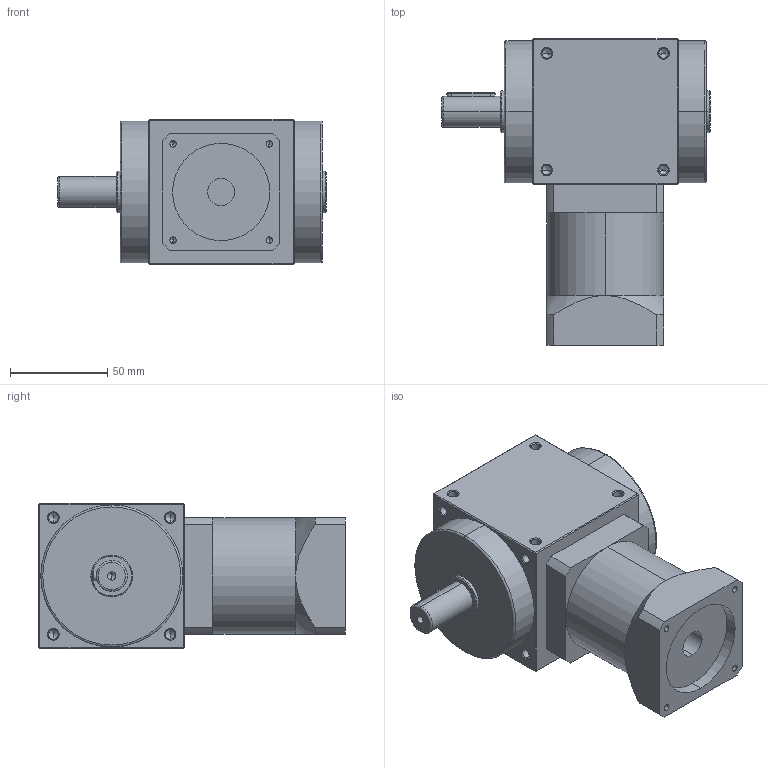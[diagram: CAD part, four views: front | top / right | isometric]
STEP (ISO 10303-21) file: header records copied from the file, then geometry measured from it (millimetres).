
FILE_DESCRIPTION (( 'STEP AP214' ), '1' );
FILE_NAME ('AT075-FL1-L1--14-50-70-M4.STEP', '2020-05-12T08:48:27', ( 'User' ), ( 'Far123' ), 'SwSTEP 2.0', 'SolidWorks 2015', '' );
FILE_SCHEMA (( 'AUTOMOTIVE_DESIGN' ));
Length unit declared in the file: millimetre
Products named in the file (1): AT075-FL1-L1--14-50-70-M4
Bounding box: 138 x 157.5 x 75 mm (x, y, z)
Volume: 789811.5 mm3; surface area: 66048.2 mm2
Topology: 1 solids, 1 shells, 273 faces, 678 edges, 367 vertices
Faces by surface type: cylinder 116, cone 100, plane 51, torus 6
Entity records: 8788 total; most frequent: CARTESIAN_POINT 1787, DIRECTION 1266, ORIENTED_EDGE 1256, EDGE_CURVE 628, AXIS2_PLACEMENT_3D 486, VERTEX_POINT 367, EDGE_LOOP 307, VECTOR 294
